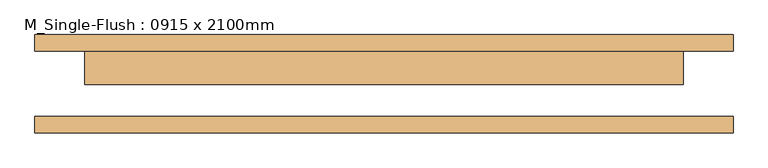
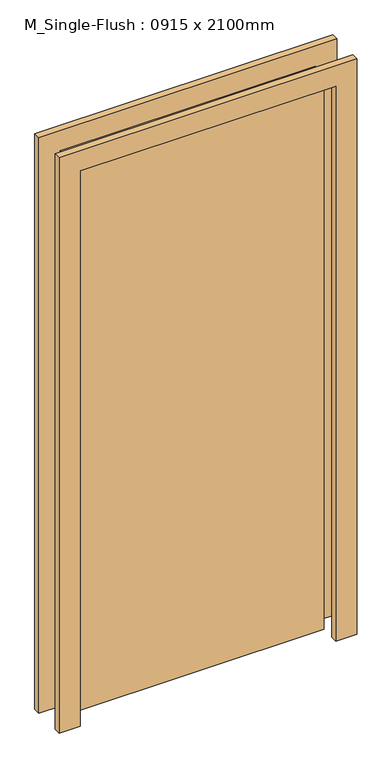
"""IFC4 building model written with IfcOpenShell, lengths in millimetres: door geometry, M_Single-Flush : 0915 x 2100mm."""

from ifc_helpers import new_model, si_unit, frame, origin, origin_with_axes, place, context, project, spatial, polyline, outline, extrude, source, transform, mapped, element, save


def m_single_flush_0915_x_2100mm_0673a319(model_context):
    return source(origin(), model_context, "Body", "SweptSolid", [
        extrude(outline(polyline([(457.5, -1.0), (-457.5, -1.0), (-457.5, 50.0), (457.5, 50.0), (457.5, -1.0)])), origin_with_axes(), (0.0, 0.0, 1.0), 2100.0),
        extrude(outline(polyline([(2176.0, -533.5), (0.0, -533.5), (0.0, -457.5), (2100.0, -457.5), (2100.0, 457.5), (0.0, 457.5), (0.0, 533.5), (2176.0, 533.5), (2176.0, -533.5)])), frame((0.0, 50.0, 0.0), z_axis=(0.0, 1.0, 0.0), x_axis=(0.0, 0.0, 1.0)), (0.0, 0.0, 1.0), 25.0),
        extrude(outline(polyline([(2176.0, 533.5), (2176.0, -533.5), (0.0, -533.5), (0.0, -457.5), (2100.0, -457.5), (2100.0, 457.5), (0.0, 457.5), (0.0, 533.5), (2176.0, 533.5)])), frame((0.0, -75.0, 0.0), z_axis=(0.0, 1.0, 0.0), x_axis=(0.0, 0.0, 1.0)), (0.0, 0.0, 1.0), 25.0),
    ])


if __name__ == "__main__":
    model = new_model("IFC4")
    model_context = context("Model", 3, world=origin())
    ifc_project = project(units=[si_unit("LENGTHUNIT", "METRE", prefix="MILLI")], contexts=[model_context])
    site = spatial("IfcSite", under=ifc_project)
    building = spatial("IfcBuilding", under=site)
    placement = place(None, origin())
    m_single_flush_0915_x_2100mm_shape = m_single_flush_0915_x_2100mm_0673a319(model_context)
    element("IfcDoor", 1, ObjectType="M_Single-Flush : 0915 x 2100mm", at=placement, inside=building, context=model_context, shape_type="MappedRepresentation", body=[
        mapped(m_single_flush_0915_x_2100mm_shape, transform((0.0, 0.0, 0.0), x_axis=(1.0, 0.0, 0.0), y_axis=(0.0, 1.0, 0.0), z_axis=(0.0, 0.0, 1.0))),
    ])
    save(model, "model.ifc")
